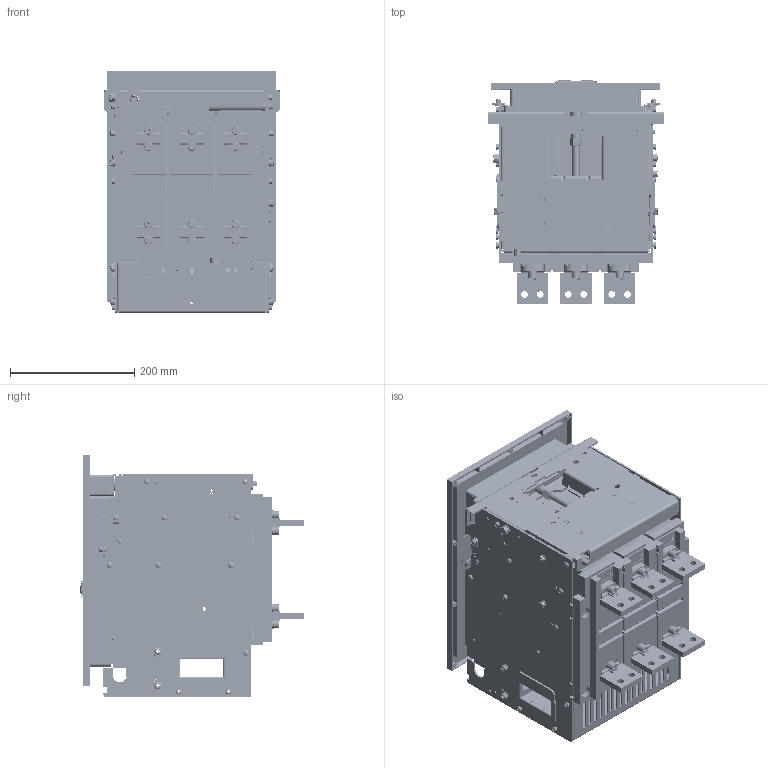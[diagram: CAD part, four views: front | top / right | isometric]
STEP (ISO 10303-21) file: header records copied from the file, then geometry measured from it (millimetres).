
FILE_DESCRIPTION (( 'STEP AP214' ), '1' );
FILE_NAME ('TEW5-1600 D 3P 200A-1000A.STEP', '2026-04-03T10:25:43', ( '' ), ( '' ), 'SwSTEP 2.0', 'SolidWorks 2024', '' );
FILE_SCHEMA (( 'AUTOMOTIVE_DESIGN' ));
Products named in the file (1): TEW5-1600 D 3P 200A-1000A
Bounding box: 282 x 359.24 x 390.25 mm (x, y, z)
Surface area: 1815075.4 mm2 (no closed solid volume)
Topology: 0 solids, 675 shells, 3039 faces, 19057 edges, 16262 vertices
Faces by surface type: plane 1930, cylinder 859, bspline 69, cone 67, sphere 60, torus 54
Full cylindrical faces by diameter (mm): 1.2 x2, 1.4 x1, 1.5 x1, 2 x8, 2.1 x1, 2.333 x1, 2.4 x4, 2.6 x8, 2.8 x1, 2.828 x37, 3 x1, 3.4 x5, 3.432 x4, 4 x7, 4.134 x1, 4.2 x5, 4.5 x2, 5 x11, 5.2 x3, 5.5 x2, 5.6 x1, 6 x11, 6.3 x4, 7 x2, 7.5 x2, 7.82 x3, 8 x7, 8.5 x2, 9 x16, 9.32 x22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
Entity records: 233624 total; most frequent: CARTESIAN_POINT 97404, DIRECTION 25191, ORIENTED_EDGE 22937, EDGE_CURVE 18655, VERTEX_POINT 16158, VECTOR 12363, LINE 12363, AXIS2_PLACEMENT_3D 6414
